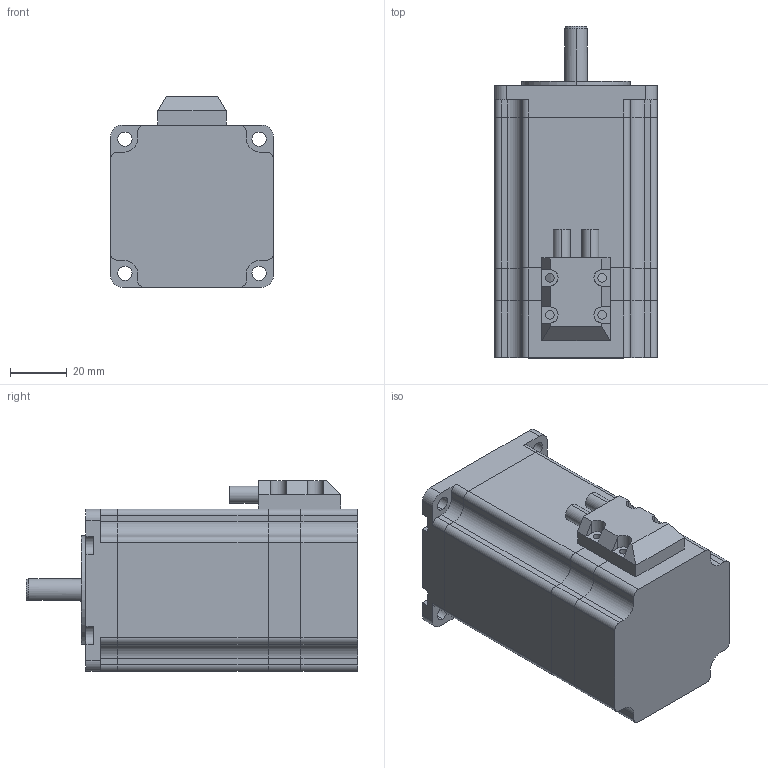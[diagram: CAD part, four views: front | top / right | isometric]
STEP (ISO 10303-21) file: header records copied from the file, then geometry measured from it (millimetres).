
FILE_DESCRIPTION (( 'STEP AP203' ), '1' );
FILE_NAME ('57HE276-40A4-0821-008.STEP', '2026-04-13T04:38:27', ( '' ), ( '' ), 'SwSTEP 2.0', 'SolidWorks 2024', '' );
FILE_SCHEMA (( 'CONFIG_CONTROL_DESIGN' ));
Length unit declared in the file: millimetre
Products named in the file (5): 571.22.01; 出轴 8x7.5x21; 57HE276-40A4-0821-008; 57-53H(57HS76); 572.22.03 双压线 U型编码器
Assembly tree (4 placements, depth 2):
  57HE276-40A4-0821-008
    57-53H(57HS76)
    571.22.01
    572.22.03 双压线 U型编码器
    出轴 8x7.5x21
Bounding box: 57 x 116.5 x 67 mm (x, y, z)
Volume: 191580.1 mm3; surface area: 58978.1 mm2
Topology: 6 solids, 6 shells, 262 faces, 698 edges, 462 vertices
Faces by surface type: plane 136, cylinder 125, cone 1
Entity records: 8806 total; most frequent: DIRECTION 1481, CARTESIAN_POINT 1459, ORIENTED_EDGE 1396, EDGE_CURVE 698, AXIS2_PLACEMENT_3D 524, VERTEX_POINT 462, LINE 433, VECTOR 433
